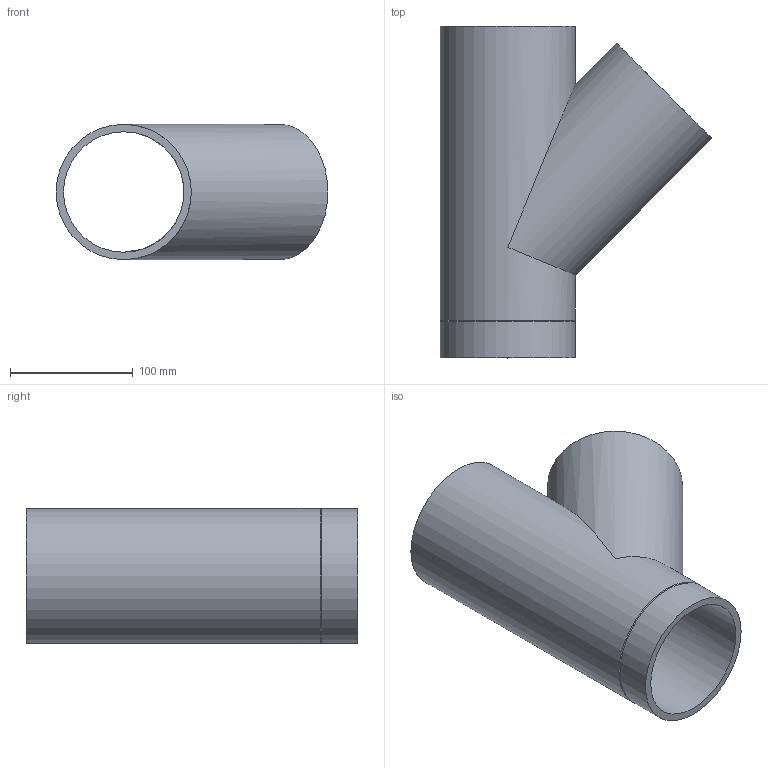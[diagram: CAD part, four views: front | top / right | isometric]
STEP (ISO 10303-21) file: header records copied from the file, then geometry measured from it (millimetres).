
FILE_DESCRIPTION(/* description */ (''),/* implementation_level */ '2;1');
FILE_NAME(/* name */ 'Z:\Geberit\Export\Export18\Abzweig Gerade_Ipart\stp\310104.stp',/* time_stamp */ '2014-08-26T21:52:15+02:00',/* author */ ('ML'),/* organization */ (''),/* preprocessor_version */ 'ST-DEVELOPER v15.2',/* originating_system */ 'Autodesk Inventor 2014',/* authorisation */ '');
FILE_SCHEMA (('AUTOMOTIVE_DESIGN { 1 0 10303 214 3 1 1 }'));
Length unit declared in the file: millimetre
Products named in the file (1): 310104
Bounding box: 221.17 x 270 x 110 mm (x, y, z)
Volume: 698162 mm3; surface area: 238976.1 mm2
Topology: 1 solids, 1 shells, 10 faces, 26 edges, 18 vertices
Faces by surface type: cylinder 5, plane 3, cone 2
Full cylindrical faces by diameter (mm): 98 x2, 110 x3
Entity records: 263 total; most frequent: DIRECTION 48, CARTESIAN_POINT 37, ORIENTED_EDGE 26, AXIS2_PLACEMENT_3D 24, EDGE_LOOP 22, FACE_BOUND 17, VERTEX_POINT 13, EDGE_CURVE 13
